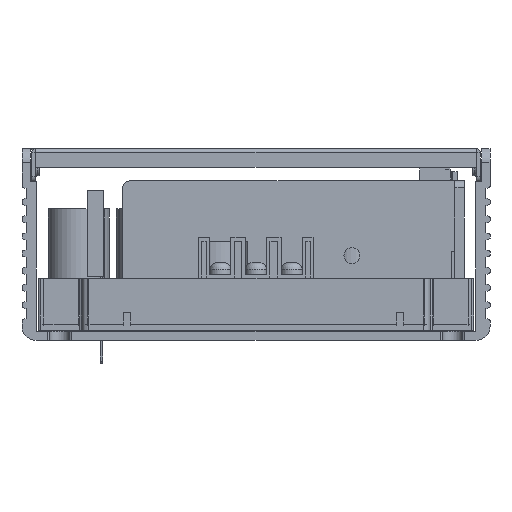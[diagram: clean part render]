
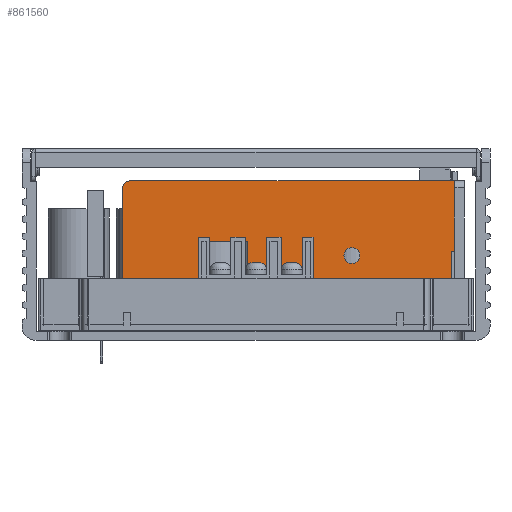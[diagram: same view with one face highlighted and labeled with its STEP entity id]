
A CAD part, front view. The second image highlights one B-rep face of the part: STEP entity #861560.
In plain terms, the highlighted planar face has unit normal (0, -1, 0) as drawn and (1, 0, 0) by its records, which use the part's own axes.
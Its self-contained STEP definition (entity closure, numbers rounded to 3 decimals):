
#856260=CARTESIAN_POINT('',(22.573,91.56,
192.1));
#856270=VERTEX_POINT('',#856260);
#856300=CARTESIAN_POINT('',(22.573,155.41,
192.1));
#856310=DIRECTION('',(0.,1.,0.));
#856320=VECTOR('',#856310,1.);
#856330=LINE('',#856300,#856320);
#856340=CARTESIAN_POINT('',(22.573,22.16,
192.1));
#856350=VERTEX_POINT('',#856340);
#856360=EDGE_CURVE('',#856350,#856270,#856330,.T.);
#856560=CARTESIAN_POINT('',(22.573,39.26,
179.1));
#856570=VERTEX_POINT('',#856560);
#856740=CARTESIAN_POINT('',(22.573,39.26,
168.1));
#856750=VERTEX_POINT('',#856740);
#856780=CARTESIAN_POINT('',(22.573,39.26,
185.1));
#856790=DIRECTION('',(0.,0.,1.));
#856800=VECTOR('',#856790,1.);
#856810=LINE('',#856780,#856800);
#856820=EDGE_CURVE('',#856750,#856570,#856810,.T.);
#857290=CARTESIAN_POINT('',(22.573,24.66,
165.1));
#857300=VERTEX_POINT('',#857290);
#857350=CARTESIAN_POINT('',(22.573,24.66,
185.1));
#857360=DIRECTION('',(0.,0.,-1.));
#857370=VECTOR('',#857360,1.);
#857380=LINE('',#857350,#857370);
#857390=CARTESIAN_POINT('',(22.573,24.66,
168.1));
#857400=VERTEX_POINT('',#857390);
#857410=EDGE_CURVE('',#857400,#857300,#857380,.T.);
#857690=CARTESIAN_POINT('',(22.573,47.26,
179.1));
#857700=VERTEX_POINT('',#857690);
#857820=CARTESIAN_POINT('',(22.573,160.01,
179.1));
#857830=DIRECTION('',(0.,1.,0.));
#857840=VECTOR('',#857830,1.);
#857850=LINE('',#857820,#857840);
#857860=EDGE_CURVE('',#856570,#857700,#857850,.T.);
#858420=CARTESIAN_POINT('',(22.573,47.26,
168.1));
#858430=VERTEX_POINT('',#858420);
#858530=CARTESIAN_POINT('',(22.573,47.26,
185.1));
#858540=DIRECTION('',(0.,0.,-1.));
#858550=VECTOR('',#858540,1.);
#858560=LINE('',#858530,#858550);
#858570=EDGE_CURVE('',#857700,#858430,#858560,.T.);
#858670=CARTESIAN_POINT('',(22.573,22.16,
190.6));
#858680=DIRECTION('',(-1.,0.,0.));
#858690=DIRECTION('',(0.,1.,0.));
#858700=AXIS2_PLACEMENT_3D('',#858670,#858680,#858690);
#858710=CIRCLE('',#858700,1.5);
#858720=CARTESIAN_POINT('',(22.573,20.66,
190.6));
#858730=VERTEX_POINT('',#858720);
#858740=EDGE_CURVE('',#858730,#856350,#858710,.T.);
#859260=CARTESIAN_POINT('',(22.573,155.41,
165.1));
#859270=DIRECTION('',(0.,1.,0.));
#859280=VECTOR('',#859270,1.);
#859290=LINE('',#859260,#859280);
#859300=CARTESIAN_POINT('',(22.573,20.66,
165.1));
#859310=VERTEX_POINT('',#859300);
#859320=EDGE_CURVE('',#859310,#857300,#859290,.T.);
#860560=CARTESIAN_POINT('',(22.573,20.66,
185.1));
#860570=DIRECTION('',(0.,0.,-1.));
#860580=VECTOR('',#860570,1.);
#860590=LINE('',#860560,#860580);
#860600=EDGE_CURVE('',#858730,#859310,#860590,.T.);
#860770=CARTESIAN_POINT('',(22.573,91.56,
185.1));
#860780=DIRECTION('',(0.,0.,-1.));
#860790=VECTOR('',#860780,1.);
#860800=LINE('',#860770,#860790);
#860810=CARTESIAN_POINT('',(22.573,91.56,
168.1));
#860820=VERTEX_POINT('',#860810);
#860830=EDGE_CURVE('',#856270,#860820,#860800,.T.);
#861170=CARTESIAN_POINT('',(22.573,67.91,
185.1));
#861180=DIRECTION('',(-1.,0.,0.));
#861190=DIRECTION('',(0.,1.,0.));
#861200=AXIS2_PLACEMENT_3D('',#861170,#861180,#861190);
#861210=PLANE('',#861200);
#861220=CARTESIAN_POINT('',(22.573,69.66,
176.15));
#861230=DIRECTION('',(-1.,0.,0.));
#861240=DIRECTION('',(0.,-1.,0.));
#861250=AXIS2_PLACEMENT_3D('',#861220,#861230,#861240);
#861260=CIRCLE('',#861250,1.7);
#861270=CARTESIAN_POINT('',(22.573,67.96,
176.15));
#861280=VERTEX_POINT('',#861270);
#861290=CARTESIAN_POINT('',(22.573,71.36,
176.15));
#861300=VERTEX_POINT('',#861290);
#861310=EDGE_CURVE('',#861280,#861300,#861260,.T.);
#861320=ORIENTED_EDGE('',*,*,#861310,.T.);
#861330=EDGE_CURVE('',#861300,#861280,#861260,.T.);
#861340=ORIENTED_EDGE('',*,*,#861330,.T.);
#861350=EDGE_LOOP('',(#861340,#861320));
#861360=FACE_BOUND('',#861350,.T.);
#861370=ORIENTED_EDGE('',*,*,#857410,.F.);
#861380=ORIENTED_EDGE('',*,*,#859320,.T.);
#861390=ORIENTED_EDGE('',*,*,#860600,.T.);
#861400=ORIENTED_EDGE('',*,*,#858740,.F.);
#861410=ORIENTED_EDGE('',*,*,#856360,.F.);
#861420=ORIENTED_EDGE('',*,*,#860830,.F.);
#861430=CARTESIAN_POINT('',(22.573,155.41,
168.1));
#861440=DIRECTION('',(0.,-1.,0.));
#861450=VECTOR('',#861440,1.);
#861460=LINE('',#861430,#861450);
#861470=EDGE_CURVE('',#860820,#858430,#861460,.T.);
#861480=ORIENTED_EDGE('',*,*,#861470,.F.);
#861490=ORIENTED_EDGE('',*,*,#858570,.T.);
#861500=ORIENTED_EDGE('',*,*,#857860,.T.);
#861510=ORIENTED_EDGE('',*,*,#856820,.T.);
#861520=EDGE_CURVE('',#856750,#857400,#861460,.T.);
#861530=ORIENTED_EDGE('',*,*,#861520,.F.);
#861540=EDGE_LOOP('',(#861530,#861510,#861500,#861490,#861480,#861420,
#861410,#861400,#861390,#861380,#861370));
#861550=FACE_OUTER_BOUND('',#861540,.T.);
#861560=ADVANCED_FACE('',(#861360,#861550),#861210,.F.);
